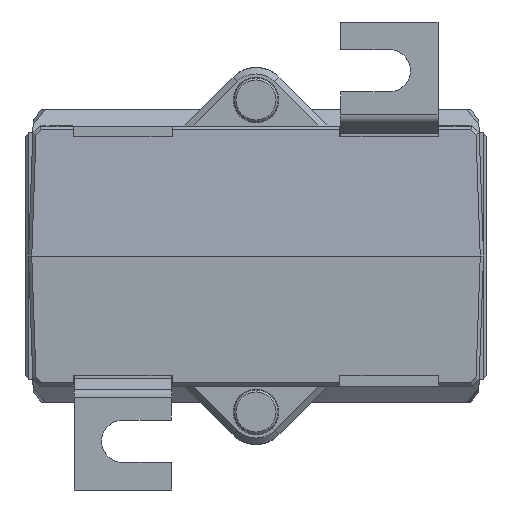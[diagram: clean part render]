
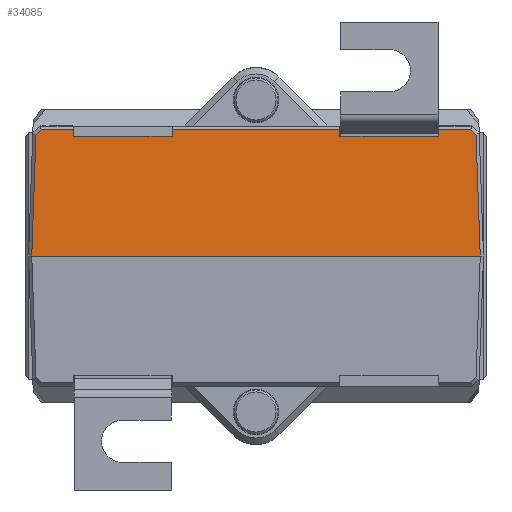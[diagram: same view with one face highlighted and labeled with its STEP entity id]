
A CAD part, front view. The second image highlights one B-rep face of the part: STEP entity #34085.
In plain terms, the highlighted planar face has unit normal (0, -0.999, 0.035).
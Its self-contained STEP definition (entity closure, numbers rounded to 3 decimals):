
#689=PLANE('',#36071);
#2878=FACE_OUTER_BOUND('',#4756,.T.);
#4756=EDGE_LOOP('',(#23907,#23908,#23909,#23910,#23911,#23912,#23913,#23914,
#23915,#23916,#23917,#23918,#23919,#23920));
#7659=LINE('',#52844,#11319);
#7660=LINE('',#52846,#11320);
#7661=LINE('',#52848,#11321);
#7662=LINE('',#52850,#11322);
#7663=LINE('',#52852,#11323);
#7664=LINE('',#52854,#11324);
#7665=LINE('',#52856,#11325);
#7666=LINE('',#52858,#11326);
#7667=LINE('',#52860,#11327);
#7668=LINE('',#52862,#11328);
#7669=LINE('',#52864,#11329);
#7670=LINE('',#52866,#11330);
#7671=LINE('',#52868,#11331);
#7672=LINE('',#52869,#11332);
#11319=VECTOR('',#39171,1000.);
#11320=VECTOR('',#39172,1000.);
#11321=VECTOR('',#39173,1000.);
#11322=VECTOR('',#39174,1000.);
#11323=VECTOR('',#39175,1000.);
#11324=VECTOR('',#39176,1000.);
#11325=VECTOR('',#39177,1000.);
#11326=VECTOR('',#39178,1000.);
#11327=VECTOR('',#39179,1000.);
#11328=VECTOR('',#39180,1000.);
#11329=VECTOR('',#39181,1000.);
#11330=VECTOR('',#39182,1000.);
#11331=VECTOR('',#39183,1000.);
#11332=VECTOR('',#39184,1000.);
#15104=VERTEX_POINT('',#52842);
#15105=VERTEX_POINT('',#52843);
#15106=VERTEX_POINT('',#52845);
#15107=VERTEX_POINT('',#52847);
#15108=VERTEX_POINT('',#52849);
#15109=VERTEX_POINT('',#52851);
#15110=VERTEX_POINT('',#52853);
#15111=VERTEX_POINT('',#52855);
#15112=VERTEX_POINT('',#52857);
#15113=VERTEX_POINT('',#52859);
#15114=VERTEX_POINT('',#52861);
#15115=VERTEX_POINT('',#52863);
#15116=VERTEX_POINT('',#52865);
#15117=VERTEX_POINT('',#52867);
#18501=EDGE_CURVE('',#15104,#15105,#7659,.T.);
#18502=EDGE_CURVE('',#15105,#15106,#7660,.T.);
#18503=EDGE_CURVE('',#15106,#15107,#7661,.T.);
#18504=EDGE_CURVE('',#15108,#15107,#7662,.T.);
#18505=EDGE_CURVE('',#15108,#15109,#7663,.T.);
#18506=EDGE_CURVE('',#15110,#15109,#7664,.T.);
#18507=EDGE_CURVE('',#15110,#15111,#7665,.T.);
#18508=EDGE_CURVE('',#15112,#15111,#7666,.T.);
#18509=EDGE_CURVE('',#15113,#15112,#7667,.T.);
#18510=EDGE_CURVE('',#15114,#15113,#7668,.T.);
#18511=EDGE_CURVE('',#15114,#15115,#7669,.T.);
#18512=EDGE_CURVE('',#15115,#15116,#7670,.T.);
#18513=EDGE_CURVE('',#15116,#15117,#7671,.T.);
#18514=EDGE_CURVE('',#15104,#15117,#7672,.T.);
#23907=ORIENTED_EDGE('',*,*,#18501,.T.);
#23908=ORIENTED_EDGE('',*,*,#18502,.T.);
#23909=ORIENTED_EDGE('',*,*,#18503,.T.);
#23910=ORIENTED_EDGE('',*,*,#18504,.F.);
#23911=ORIENTED_EDGE('',*,*,#18505,.T.);
#23912=ORIENTED_EDGE('',*,*,#18506,.F.);
#23913=ORIENTED_EDGE('',*,*,#18507,.T.);
#23914=ORIENTED_EDGE('',*,*,#18508,.F.);
#23915=ORIENTED_EDGE('',*,*,#18509,.F.);
#23916=ORIENTED_EDGE('',*,*,#18510,.F.);
#23917=ORIENTED_EDGE('',*,*,#18511,.T.);
#23918=ORIENTED_EDGE('',*,*,#18512,.T.);
#23919=ORIENTED_EDGE('',*,*,#18513,.T.);
#23920=ORIENTED_EDGE('',*,*,#18514,.F.);
#34085=ADVANCED_FACE('',(#2878),#689,.T.);
#36071=AXIS2_PLACEMENT_3D('',#52841,#39169,#39170);
#39169=DIRECTION('center_axis',(0.,-0.999,0.035));
#39170=DIRECTION('ref_axis',(0.,-0.035,-0.999));
#39171=DIRECTION('',(-0.035,0.035,0.999));
#39172=DIRECTION('',(-0.731,0.024,0.682));
#39173=DIRECTION('',(-1.,0.,0.));
#39174=DIRECTION('',(0.009,0.035,0.999));
#39175=DIRECTION('',(-1.,0.,0.));
#39176=DIRECTION('',(0.009,-0.035,-0.999));
#39177=DIRECTION('',(-1.,0.,0.));
#39178=DIRECTION('',(0.009,0.035,0.999));
#39179=DIRECTION('',(1.,0.,0.));
#39180=DIRECTION('',(0.009,-0.035,-0.999));
#39181=DIRECTION('',(-1.,0.,0.));
#39182=DIRECTION('',(-0.731,-0.024,-0.682));
#39183=DIRECTION('',(-0.035,-0.035,-0.999));
#39184=DIRECTION('',(-1.,0.,0.));
#52841=CARTESIAN_POINT('Origin',(-35.,-36.,0.));
#52842=CARTESIAN_POINT('',(34.499,-36.,0.));
#52843=CARTESIAN_POINT('',(33.845,-35.345,18.758));
#52844=CARTESIAN_POINT('',(34.415,-35.915,2.421));
#52845=CARTESIAN_POINT('',(33.048,-35.319,19.5));
#52846=CARTESIAN_POINT('',(32.915,-35.315,19.625));
#52847=CARTESIAN_POINT('',(28.118,-35.319,19.5));
#52848=CARTESIAN_POINT('',(-33.265,-35.319,19.5));
#52849=CARTESIAN_POINT('',(28.108,-35.357,18.4));
#52850=CARTESIAN_POINT('',(27.943,-36.019,-0.549));
#52851=CARTESIAN_POINT('',(12.892,-35.357,18.4));
#52852=CARTESIAN_POINT('',(-35.,-35.357,18.4));
#52853=CARTESIAN_POINT('',(12.882,-35.319,19.5));
#52854=CARTESIAN_POINT('',(13.049,-35.985,0.419));
#52855=CARTESIAN_POINT('',(-12.882,-35.319,19.5));
#52856=CARTESIAN_POINT('',(-33.265,-35.319,19.5));
#52857=CARTESIAN_POINT('',(-12.892,-35.357,18.4));
#52858=CARTESIAN_POINT('',(-13.054,-36.007,-0.191));
#52859=CARTESIAN_POINT('',(-28.108,-35.357,18.4));
#52860=CARTESIAN_POINT('',(-35.,-35.357,18.4));
#52861=CARTESIAN_POINT('',(-28.118,-35.319,19.5));
#52862=CARTESIAN_POINT('',(-27.948,-35.998,0.061));
#52863=CARTESIAN_POINT('',(-33.048,-35.319,19.5));
#52864=CARTESIAN_POINT('',(-33.265,-35.319,19.5));
#52865=CARTESIAN_POINT('',(-33.844,-35.345,18.758));
#52866=CARTESIAN_POINT('',(-33.986,-35.35,18.626));
#52867=CARTESIAN_POINT('',(-34.499,-36.,0.));
#52868=CARTESIAN_POINT('',(-34.5,-36.001,-0.017));
#52869=CARTESIAN_POINT('',(35.,-36.,0.));
